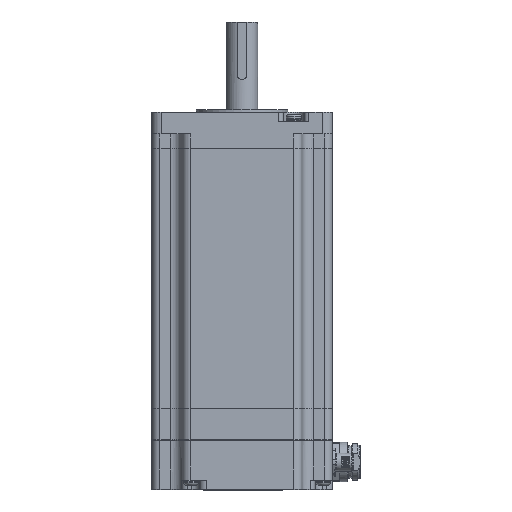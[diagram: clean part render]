
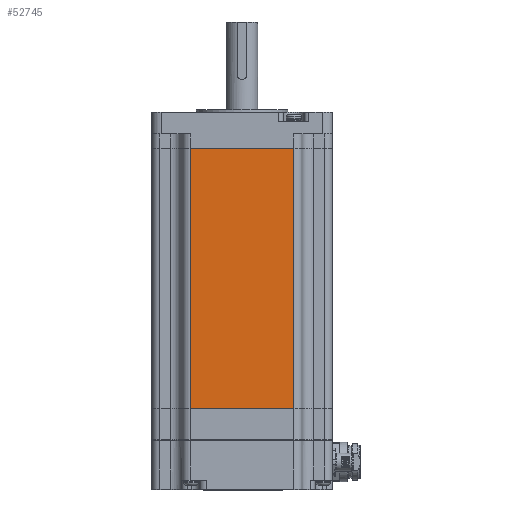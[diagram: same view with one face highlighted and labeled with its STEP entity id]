
A CAD part, left-side view. The second image highlights one B-rep face of the part: STEP entity #52745.
In plain terms, the highlighted planar face has unit normal (-1, 0, 0).
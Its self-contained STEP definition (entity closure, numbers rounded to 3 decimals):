
#801 = DIRECTION ( 'NONE',  ( 0., 0., 1. ) ) ;
#2401 = EDGE_CURVE ( 'NONE', #32906, #32101, #5419, .T. ) ;
#5419 = LINE ( 'NONE', #10599, #36310 ) ;
#5718 = EDGE_LOOP ( 'NONE', ( #19914, #41357, #44927, #17253 ) ) ;
#8707 = CARTESIAN_POINT ( 'NONE',  ( -55., 31.5, 0. ) ) ;
#9340 = CARTESIAN_POINT ( 'NONE',  ( -55., -31.5, 0. ) ) ;
#10270 = LINE ( 'NONE', #14845, #20500 ) ;
#10282 = LINE ( 'NONE', #38518, #20890 ) ;
#10333 = DIRECTION ( 'NONE',  ( 0., -1., 0. ) ) ;
#10599 = CARTESIAN_POINT ( 'NONE',  ( -55., 31.5, -158.42 ) ) ;
#11736 = VECTOR ( 'NONE', #10333, 1000. ) ;
#14845 = CARTESIAN_POINT ( 'NONE',  ( -55., -31.5, -158.42 ) ) ;
#14913 = CARTESIAN_POINT ( 'NONE',  ( -55., 31.5, 0. ) ) ;
#17253 = ORIENTED_EDGE ( 'NONE', *, *, #21286, .T. ) ;
#19914 = ORIENTED_EDGE ( 'NONE', *, *, #54048, .F. ) ;
#20500 = VECTOR ( 'NONE', #801, 1000. ) ;
#20890 = VECTOR ( 'NONE', #57118, 1000. ) ;
#21094 = CARTESIAN_POINT ( 'NONE',  ( -55., 31.5, -158.42 ) ) ;
#21286 = EDGE_CURVE ( 'NONE', #57959, #26621, #10270, .T. ) ;
#21379 = PLANE ( 'NONE',  #33482 ) ;
#23448 = LINE ( 'NONE', #14913, #11736 ) ;
#24373 = CARTESIAN_POINT ( 'NONE',  ( -55., -31.5, -158.42 ) ) ;
#26621 = VERTEX_POINT ( 'NONE', #9340 ) ;
#27967 = EDGE_CURVE ( 'NONE', #32906, #57959, #10282, .T. ) ;
#28576 = DIRECTION ( 'NONE',  ( 0., 0., 1. ) ) ;
#32101 = VERTEX_POINT ( 'NONE', #8707 ) ;
#32906 = VERTEX_POINT ( 'NONE', #40843 ) ;
#33482 = AXIS2_PLACEMENT_3D ( 'NONE', #21094, #38936, #43532 ) ;
#36310 = VECTOR ( 'NONE', #28576, 1000. ) ;
#38518 = CARTESIAN_POINT ( 'NONE',  ( -55., 31.5, -158.42 ) ) ;
#38936 = DIRECTION ( 'NONE',  ( -1., 0., 0. ) ) ;
#40843 = CARTESIAN_POINT ( 'NONE',  ( -55., 31.5, -158.42 ) ) ;
#41357 = ORIENTED_EDGE ( 'NONE', *, *, #2401, .F. ) ;
#43532 = DIRECTION ( 'NONE',  ( 0., -1., 0. ) ) ;
#44927 = ORIENTED_EDGE ( 'NONE', *, *, #27967, .T. ) ;
#52745 = ADVANCED_FACE ( 'NONE', ( #58432 ), #21379, .T. ) ;
#54048 = EDGE_CURVE ( 'NONE', #32101, #26621, #23448, .T. ) ;
#57118 = DIRECTION ( 'NONE',  ( 0., -1., 0. ) ) ;
#57959 = VERTEX_POINT ( 'NONE', #24373 ) ;
#58432 = FACE_OUTER_BOUND ( 'NONE', #5718, .T. ) ;
